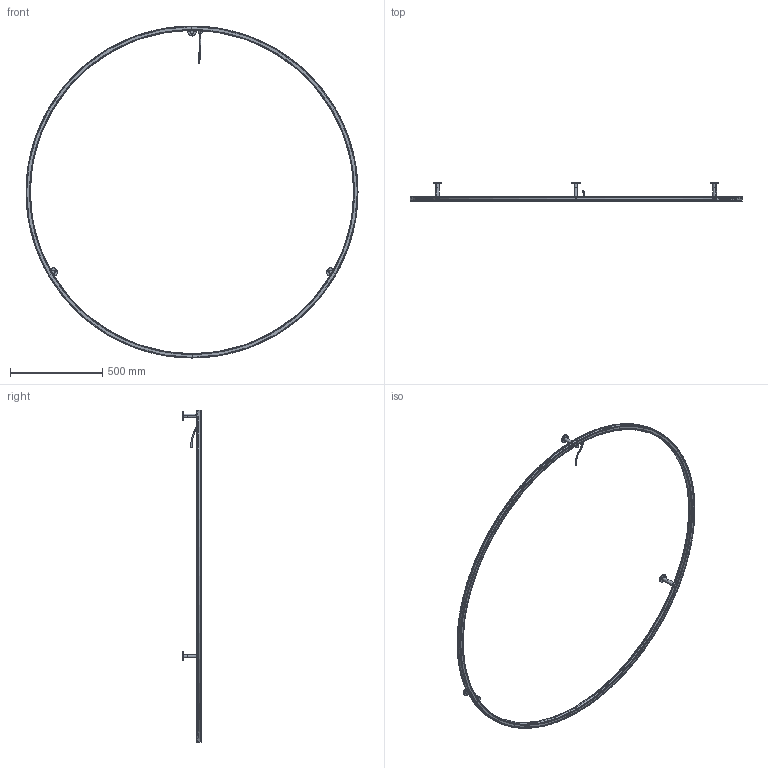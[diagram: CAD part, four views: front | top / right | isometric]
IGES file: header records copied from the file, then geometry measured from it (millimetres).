
Start section: SolidWorks IGES file using analytic representation for surfaces
Global section: file name: \\STORAGE\Tecnico Condiviso\1 FASCICOLI TECNICI\LIGHTECTURE\LIG008-U LIGHT\CE\PLULA180LED\PLUL1180LED-PER 3D.IGS; native system: SolidWorks 2024; preprocessor: SolidWorks 2024; author: tecnico3; date: 240528.190743; units: millimetre
Bounding box: 1800 x 101.5 x 1800 mm (x, y, z)
Surface area: 1123389.2 mm2 (no closed solid volume)
Topology: 0 solids, 0 shells, 493 faces, 6948 edges, 6942 vertices
Faces by surface type: revolution 273, bspline 220
